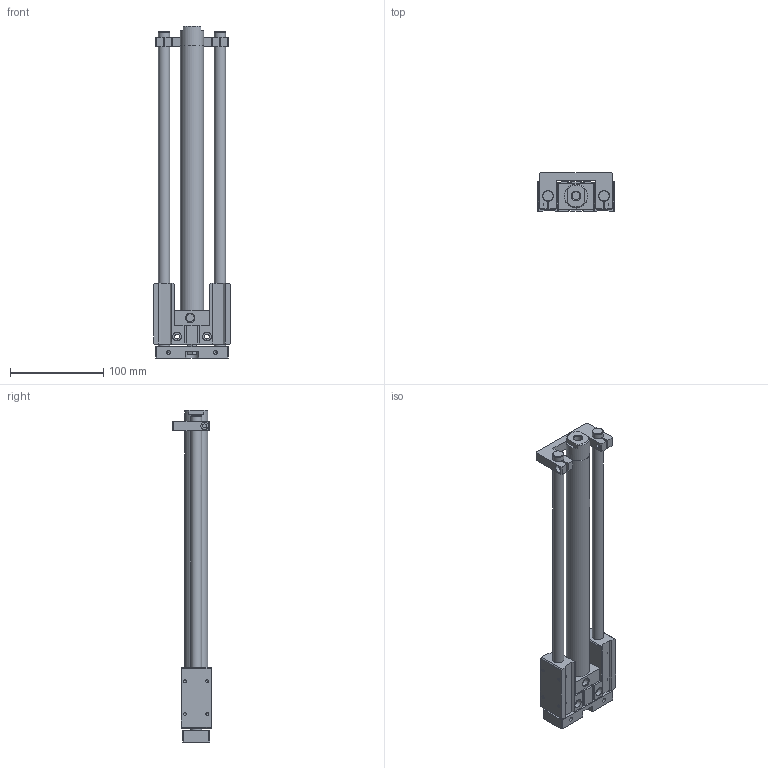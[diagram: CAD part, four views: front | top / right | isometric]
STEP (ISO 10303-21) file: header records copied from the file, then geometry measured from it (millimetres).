
FILE_DESCRIPTION((''),'2;1');
FILE_NAME('I:\3D電子目錄\氣缸\TMB(U)\TMB(U)\TMB(U)20\TMB(U)20x250.stp','2007-10-04T15:03:44',('Administrator'),(''),'Autodesk Inventor 11','Autodesk Inventor 11','');
FILE_SCHEMA(('AUTOMOTIVE_DESIGN { 1 0 10303 214 1 1 1 1 }'));
Length unit declared in the file: millimetre
Products named in the file (1): TMB(U)20
Bounding box: 82 x 41 x 356 mm (x, y, z)
Volume: 367178.4 mm3; surface area: 85851.8 mm2
Topology: 1 solids, 1 shells, 244 faces, 668 edges, 432 vertices
Faces by surface type: plane 139, bspline 50, cone 28, cylinder 25, torus 2
Full cylindrical faces by diameter (mm): 3.242 x4, 4.134 x4, 8 x1, 10 x2, 11 x2, 12 x3, 25 x2
Entity records: 7581 total; most frequent: CARTESIAN_POINT 2093, ORIENTED_EDGE 1088, DIRECTION 1054, EDGE_CURVE 544, VERTEX_POINT 384, EDGE_LOOP 368, AXIS2_PLACEMENT_3D 355, VECTOR 344
